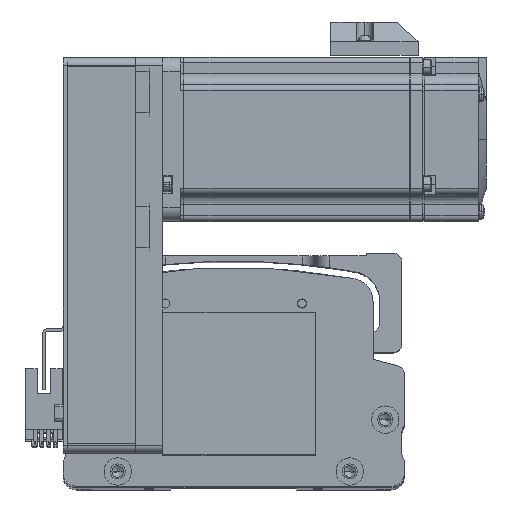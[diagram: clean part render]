
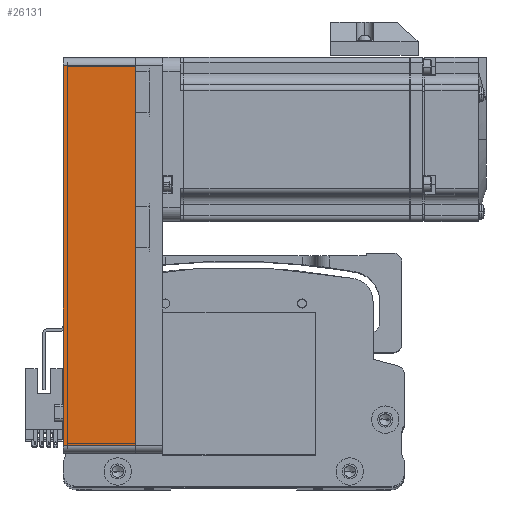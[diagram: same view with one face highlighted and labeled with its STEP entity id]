
A CAD part, top view. The second image highlights one B-rep face of the part: STEP entity #26131.
In plain terms, the highlighted planar face has unit normal (0, 0, 1) as drawn and (0, -1, 0) by its records, which use the part's own axes.
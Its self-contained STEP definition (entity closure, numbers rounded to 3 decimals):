
#3756 = LINE ( 'NONE', #28602, #32884 ) ;
#3776 = LINE ( 'NONE', #61520, #67925 ) ;
#8359 = DIRECTION ( 'NONE',  ( 1., 0., 0. ) ) ;
#10136 = VERTEX_POINT ( 'NONE', #62599 ) ;
#11416 = EDGE_CURVE ( 'NONE', #18942, #54293, #67965, .T. ) ;
#18942 = VERTEX_POINT ( 'NONE', #60813 ) ;
#20169 = EDGE_LOOP ( 'NONE', ( #60544, #75937, #24077, #44081 ) ) ;
#23026 = DIRECTION ( 'NONE',  ( 0., 1., 0. ) ) ;
#24077 = ORIENTED_EDGE ( 'NONE', *, *, #11416, .F. ) ;
#24218 = DIRECTION ( 'NONE',  ( 0., 0., -1. ) ) ;
#26131 = ADVANCED_FACE ( 'NONE', ( #66935 ), #35319, .F. ) ;
#27353 = CARTESIAN_POINT ( 'NONE',  ( 69.5, -30., 26.5 ) ) ;
#28602 = CARTESIAN_POINT ( 'NONE',  ( 72.5, -30., 0. ) ) ;
#29866 = EDGE_CURVE ( 'NONE', #18942, #10136, #3776, .T. ) ;
#30195 = CARTESIAN_POINT ( 'NONE',  ( 69.5, -30., 26.5 ) ) ;
#32884 = VECTOR ( 'NONE', #34832, 1000. ) ;
#34832 = DIRECTION ( 'NONE',  ( 1., 0., 0. ) ) ;
#35319 = PLANE ( 'NONE',  #50030 ) ;
#44081 = ORIENTED_EDGE ( 'NONE', *, *, #29866, .T. ) ;
#47585 = LINE ( 'NONE', #27353, #62171 ) ;
#50030 = AXIS2_PLACEMENT_3D ( 'NONE', #60353, #23026, #66579 ) ;
#54101 = EDGE_CURVE ( 'NONE', #10136, #79381, #3756, .T. ) ;
#54293 = VERTEX_POINT ( 'NONE', #30195 ) ;
#55879 = EDGE_CURVE ( 'NONE', #79381, #54293, #47585, .T. ) ;
#60353 = CARTESIAN_POINT ( 'NONE',  ( 72.5, -30., 26.5 ) ) ;
#60544 = ORIENTED_EDGE ( 'NONE', *, *, #54101, .T. ) ;
#60813 = CARTESIAN_POINT ( 'NONE',  ( -69.5, -30., 26.5 ) ) ;
#61520 = CARTESIAN_POINT ( 'NONE',  ( -69.5, -30., 26.5 ) ) ;
#62171 = VECTOR ( 'NONE', #70780, 1000. ) ;
#62599 = CARTESIAN_POINT ( 'NONE',  ( -69.5, -30., 0. ) ) ;
#64326 = CARTESIAN_POINT ( 'NONE',  ( 72.5, -30., 26.5 ) ) ;
#66579 = DIRECTION ( 'NONE',  ( -1., 0., 0. ) ) ;
#66935 = FACE_OUTER_BOUND ( 'NONE', #20169, .T. ) ;
#67925 = VECTOR ( 'NONE', #24218, 1000. ) ;
#67965 = LINE ( 'NONE', #64326, #69885 ) ;
#69885 = VECTOR ( 'NONE', #8359, 1000. ) ;
#70780 = DIRECTION ( 'NONE',  ( 0., 0., 1. ) ) ;
#75937 = ORIENTED_EDGE ( 'NONE', *, *, #55879, .T. ) ;
#79138 = CARTESIAN_POINT ( 'NONE',  ( 69.5, -30., 0. ) ) ;
#79381 = VERTEX_POINT ( 'NONE', #79138 ) ;
